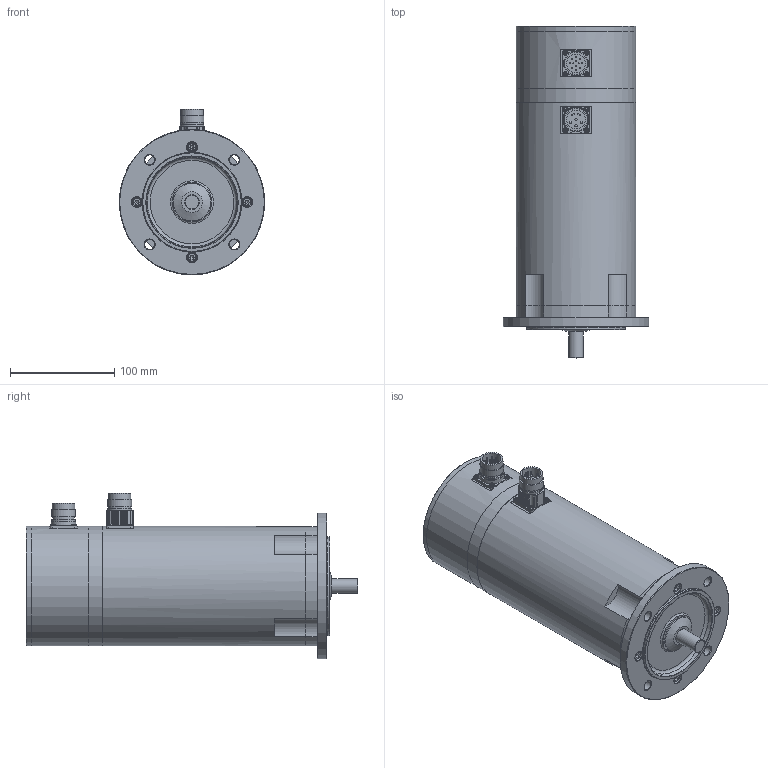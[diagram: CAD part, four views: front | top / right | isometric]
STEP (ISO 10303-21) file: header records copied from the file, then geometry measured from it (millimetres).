
FILE_DESCRIPTION(/* description */ (''),/* implementation_level */ '2;1');
FILE_NAME(/* name */ 'ksa_4x12e_ixx',/* time_stamp */ '2007-03-13T14:46:47+01:00',/* author */ (''),/* organization */ (''),/* preprocessor_version */ 'ST-DEVELOPER v8',/* originating_system */ 'UNIGRAPHICS SOLUTIONS - UNIGRAPHICS 18.0',/* authorisation */ '');
FILE_SCHEMA (('AUTOMOTIVE_DESIGN { 1 2 10303 214 0 1 1 1 }'));
Length unit declared in the file: millimetre
Products named in the file (14): iso1580-m2.5x6_A; din912-m4x10_A; din912-m5x25_A; 014261_0; 064256_0; 089257_0; 114113_0; 014260_0; 06331201_0; DIN3760_org_A15x30x7_0; Rotor-SA 4 E_0; 114108_0; Gehaeuse SA 4 E_0; KSA444_E-I27_0
Assembly tree (26 placements, depth 2):
  KSA444_E-I27_0
    Gehaeuse SA 4 E_0
    114108_0
    Rotor-SA 4 E_0
    DIN3760_org_A15x30x7_0
    06331201_0
    014260_0
    114113_0
    089257_0
    064256_0
    014261_0
    din912-m5x25_A  x4
    din912-m4x10_A  x4
    iso1580-m2.5x6_A  x8
Bounding box: 140 x 319 x 159.5 mm (x, y, z)
Volume: 1792269.6 mm3; surface area: 311618.3 mm2
Topology: 26 solids, 26 shells, 722 faces, 1696 edges, 1071 vertices
Faces by surface type: plane 282, cylinder 255, cone 120, torus 40, sphere 20, bspline 5
Full cylindrical faces by diameter (mm): 1 x16, 1.948 x8, 2 x4, 2.135 x4, 2.5 x8, 2.7 x8, 3 x4, 3.013 x4, 3.3 x4, 3.432 x8, 4 x8, 4.5 x12, 5 x4, 5.5 x4, 6 x1, 6.5 x4, 7 x4, 8 x12, 8.5 x4, 9.5 x4, 10 x4, 13.52 x1, 13.9 x1, 14 x1, 15 x2, 15.3 x1, 16 x1, 18 x2, 20 x4, 21 x2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
Entity records: 13231 total; most frequent: DIRECTION 2434, CARTESIAN_POINT 2285, ORIENTED_EDGE 1588, AXIS2_PLACEMENT_3D 1129, EDGE_LOOP 933, EDGE_CURVE 794, VERTEX_POINT 659, FACE_BOUND 611
